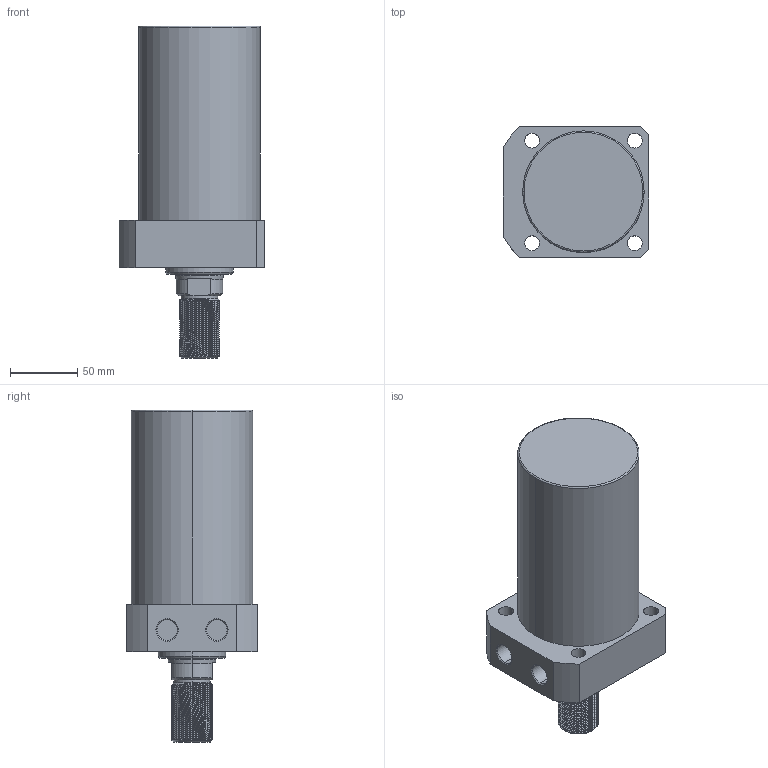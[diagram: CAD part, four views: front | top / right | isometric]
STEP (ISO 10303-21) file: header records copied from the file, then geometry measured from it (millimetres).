
FILE_DESCRIPTION (( 'STEP AP214' ), '1' );
FILE_NAME ('CLLR-090CT-100.STEP', '2020-01-10T02:22:14', ( 'Windows' ), ( 'Microsoft' ), 'SwSTEP 2.0', 'SolidWorks 2015', '' );
FILE_SCHEMA (( 'AUTOMOTIVE_DESIGN' ));
Length unit declared in the file: millimetre
Products named in the file (1): CLLR-090CT-100
Bounding box: 108 x 97 x 246 mm (x, y, z)
Volume: 1309805.9 mm3; surface area: 89879.3 mm2
Topology: 1 solids, 1 shells, 125 faces, 331 edges, 216 vertices
Faces by surface type: cylinder 85, plane 20, cone 16, torus 2, bspline 2
Entity records: 7050 total; most frequent: CARTESIAN_POINT 4154, ORIENTED_EDGE 662, DIRECTION 530, EDGE_CURVE 331, VERTEX_POINT 216, AXIS2_PLACEMENT_3D 204, EDGE_LOOP 141, FACE_OUTER_BOUND 125
